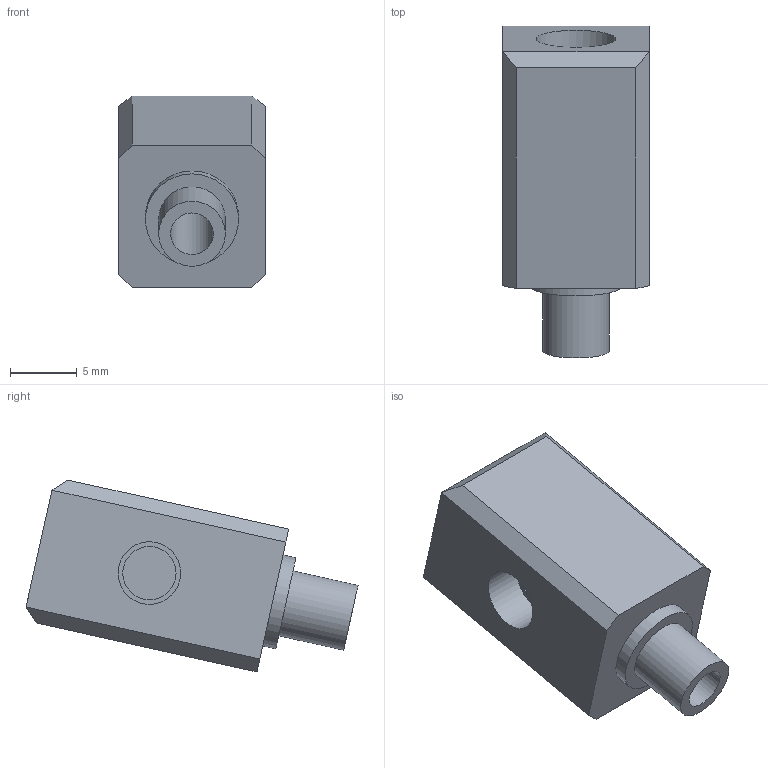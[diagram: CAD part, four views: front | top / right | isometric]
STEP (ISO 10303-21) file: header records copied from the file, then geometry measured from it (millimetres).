
FILE_DESCRIPTION(/* description */ (''),/* implementation_level */ '2;1');
FILE_NAME(/* name */ '4-15-4 Wishbone connector TPU.step',/* time_stamp */ '2025-05-10T22:17:44+02:00',/* author */ (''),/* organization */ (''),/* preprocessor_version */ 'ST-DEVELOPER v20.1',/* originating_system */ 'Autodesk Translation Framework v14.4.0.0',/* authorisation */ '');
FILE_SCHEMA (('AUTOMOTIVE_DESIGN { 1 0 10303 214 3 1 1 }'));
Length unit declared in the file: millimetre
Products named in the file (1): Wishbone connector
Bounding box: 11 x 24.94 x 14.42 mm (x, y, z)
Volume: 1900.6 mm3; surface area: 1416 mm2
Topology: 1 solids, 1 shells, 27 faces, 52 edges, 33 vertices
Faces by surface type: plane 18, cylinder 8, cone 1
Full cylindrical faces by diameter (mm): 3.2 x1, 4 x2, 4.7 x2, 5 x1, 6 x1, 7 x1
Entity records: 727 total; most frequent: DIRECTION 125, CARTESIAN_POINT 113, ORIENTED_EDGE 104, EDGE_CURVE 52, AXIS2_PLACEMENT_3D 45, EDGE_LOOP 35, LINE 35, VECTOR 35
